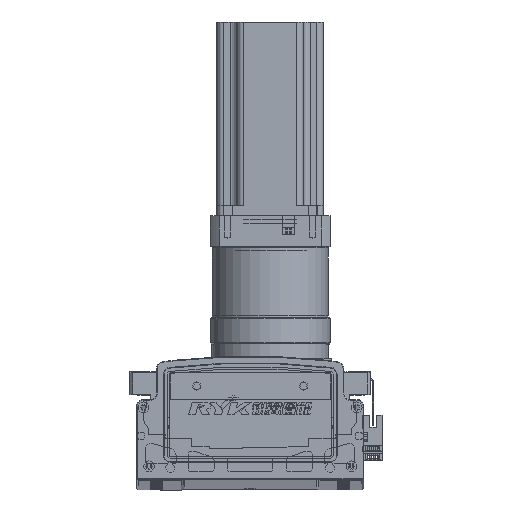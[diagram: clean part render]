
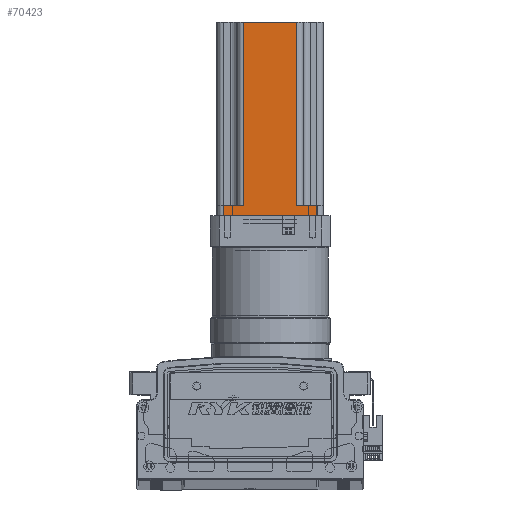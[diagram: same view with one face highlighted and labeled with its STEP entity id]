
A CAD part, top view. The second image highlights one B-rep face of the part: STEP entity #70423.
In plain terms, the highlighted planar face has unit normal (0, 0, 1) as drawn and (0, -1, 0) by its records, which use the part's own axes.
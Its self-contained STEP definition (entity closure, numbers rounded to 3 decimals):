
#827 = AXIS2_PLACEMENT_3D ( 'NONE', #63866, #63839, #63851 ) ;
#16901 = EDGE_CURVE ( 'NONE', #59360, #59403, #86632, .T. ) ;
#16940 = EDGE_CURVE ( 'NONE', #59501, #59197, #86576, .T. ) ;
#16959 = EDGE_CURVE ( 'NONE', #59512, #59403, #86582, .T. ) ;
#17000 = EDGE_CURVE ( 'NONE', #59360, #59464, #86738, .T. ) ;
#17015 = EDGE_CURVE ( 'NONE', #59545, #59464, #86760, .T. ) ;
#17019 = EDGE_CURVE ( 'NONE', #59545, #59383, #86764, .T. ) ;
#17062 = EDGE_CURVE ( 'NONE', #59512, #59501, #84857, .T. ) ;
#17102 = EDGE_CURVE ( 'NONE', #59197, #59383, #48076, .T. ) ;
#25743 = DIRECTION ( 'NONE',  ( 1., 0., 0. ) ) ;
#25745 = CARTESIAN_POINT ( 'NONE',  ( -87.587, -40.37, 8. ) ) ;
#25770 = DIRECTION ( 'NONE',  ( 1., 0., 0. ) ) ;
#25773 = CARTESIAN_POINT ( 'NONE',  ( -87.587, -40.37, 0. ) ) ;
#25780 = CARTESIAN_POINT ( 'NONE',  ( -87.587, -40.37, 145. ) ) ;
#25827 = DIRECTION ( 'NONE',  ( 1., 0., 0. ) ) ;
#25842 = DIRECTION ( 'NONE',  ( 0., 0., 1. ) ) ;
#25849 = DIRECTION ( 'NONE',  ( 1., 0., 0. ) ) ;
#25856 = CARTESIAN_POINT ( 'NONE',  ( -27.587, -40.37, 145. ) ) ;
#25871 = CARTESIAN_POINT ( 'NONE',  ( -7.587, -40.37, 8. ) ) ;
#25929 = CARTESIAN_POINT ( 'NONE',  ( -82.587, -40.37, 145. ) ) ;
#25950 = DIRECTION ( 'NONE',  ( 0., 0., -1. ) ) ;
#26040 = DIRECTION ( 'NONE',  ( 0., 0., 1. ) ) ;
#26129 = CARTESIAN_POINT ( 'NONE',  ( -12.587, -40.37, 145. ) ) ;
#27560 = DIRECTION ( 'NONE',  ( 0., 0., -1. ) ) ;
#27569 = CARTESIAN_POINT ( 'NONE',  ( -67.587, -40.37, 145. ) ) ;
#47939 = VECTOR ( 'NONE', #26040, 1000. ) ;
#48076 = LINE ( 'NONE', #26129, #47939 ) ;
#59197 = VERTEX_POINT ( 'NONE', #74460 ) ;
#59360 = VERTEX_POINT ( 'NONE', #74553 ) ;
#59383 = VERTEX_POINT ( 'NONE', #74527 ) ;
#59403 = VERTEX_POINT ( 'NONE', #74554 ) ;
#59464 = VERTEX_POINT ( 'NONE', #74509 ) ;
#59501 = VERTEX_POINT ( 'NONE', #74539 ) ;
#59512 = VERTEX_POINT ( 'NONE', #74607 ) ;
#59545 = VERTEX_POINT ( 'NONE', #74609 ) ;
#63692 = PLANE ( 'NONE',  #827 ) ;
#63839 = DIRECTION ( 'NONE',  ( 0., 1., 0. ) ) ;
#63851 = DIRECTION ( 'NONE',  ( -1., 0., 0. ) ) ;
#63866 = CARTESIAN_POINT ( 'NONE',  ( -87.587, -40.37, 145. ) ) ;
#70423 = ADVANCED_FACE ( 'NONE', ( #86099 ), #63692, .F. ) ;
#74460 = CARTESIAN_POINT ( 'NONE',  ( -12.587, -40.37, 0. ) ) ;
#74509 = CARTESIAN_POINT ( 'NONE',  ( -27.587, -40.37, 145. ) ) ;
#74527 = CARTESIAN_POINT ( 'NONE',  ( -12.587, -40.37, 8. ) ) ;
#74539 = CARTESIAN_POINT ( 'NONE',  ( -82.587, -40.37, 0. ) ) ;
#74553 = CARTESIAN_POINT ( 'NONE',  ( -67.587, -40.37, 145. ) ) ;
#74554 = CARTESIAN_POINT ( 'NONE',  ( -67.587, -40.37, 8. ) ) ;
#74607 = CARTESIAN_POINT ( 'NONE',  ( -82.587, -40.37, 8. ) ) ;
#74609 = CARTESIAN_POINT ( 'NONE',  ( -27.587, -40.37, 8. ) ) ;
#74721 = ORIENTED_EDGE ( 'NONE', *, *, #17015, .T. ) ;
#74726 = ORIENTED_EDGE ( 'NONE', *, *, #17000, .F. ) ;
#74745 = ORIENTED_EDGE ( 'NONE', *, *, #17062, .T. ) ;
#74746 = ORIENTED_EDGE ( 'NONE', *, *, #16959, .F. ) ;
#74780 = ORIENTED_EDGE ( 'NONE', *, *, #17102, .T. ) ;
#74792 = ORIENTED_EDGE ( 'NONE', *, *, #16940, .T. ) ;
#74822 = ORIENTED_EDGE ( 'NONE', *, *, #16901, .T. ) ;
#74825 = ORIENTED_EDGE ( 'NONE', *, *, #17019, .F. ) ;
#84857 = LINE ( 'NONE', #25929, #85000 ) ;
#85000 = VECTOR ( 'NONE', #25950, 1000. ) ;
#86099 = FACE_OUTER_BOUND ( 'NONE', #87315, .T. ) ;
#86566 = VECTOR ( 'NONE', #27560, 1000. ) ;
#86576 = LINE ( 'NONE', #25773, #86630 ) ;
#86582 = LINE ( 'NONE', #25745, #86648 ) ;
#86630 = VECTOR ( 'NONE', #25743, 1000. ) ;
#86632 = LINE ( 'NONE', #27569, #86566 ) ;
#86648 = VECTOR ( 'NONE', #25770, 1000. ) ;
#86708 = VECTOR ( 'NONE', #25849, 1000. ) ;
#86738 = LINE ( 'NONE', #25780, #86708 ) ;
#86760 = LINE ( 'NONE', #25856, #86792 ) ;
#86764 = LINE ( 'NONE', #25871, #86780 ) ;
#86780 = VECTOR ( 'NONE', #25827, 1000. ) ;
#86792 = VECTOR ( 'NONE', #25842, 1000. ) ;
#87315 = EDGE_LOOP ( 'NONE', ( #74746, #74745, #74792, #74780, #74825, #74721, #74726, #74822 ) ) ;
